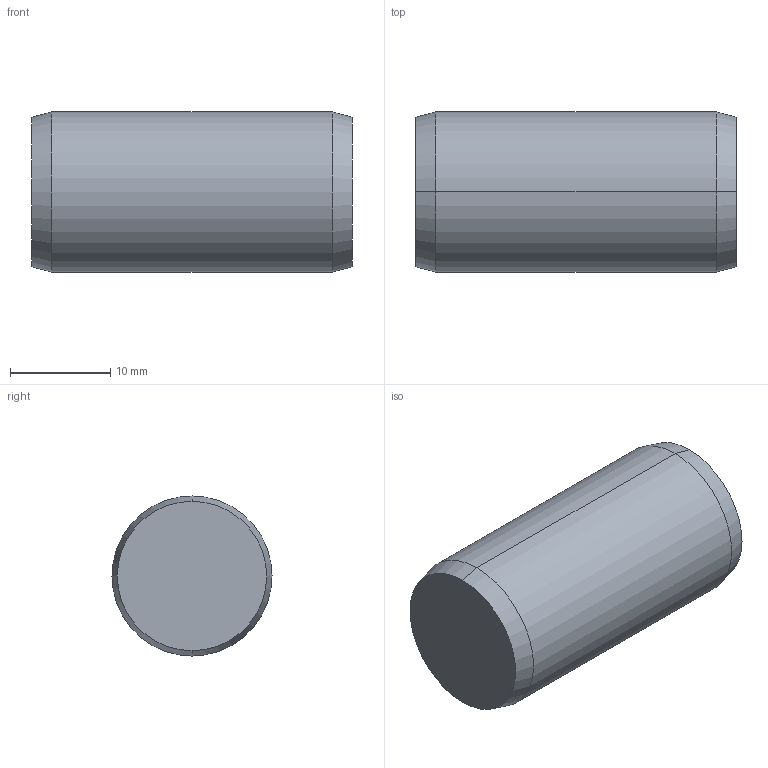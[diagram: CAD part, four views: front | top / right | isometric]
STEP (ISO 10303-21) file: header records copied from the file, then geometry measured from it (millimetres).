
FILE_DESCRIPTION (( 'STEP AP203' ), '1' );
FILE_NAME ('P1206.160-032.step', '2017-06-14T08:42:17', ( 'User' ), ( '' ), 'SwSTEP 2.0', 'SolidWorks 2009', '' );
FILE_SCHEMA (( 'CONFIG_CONTROL_DESIGN' ));
Length unit declared in the file: millimetre
Products named in the file (1): P1206.160-032
Bounding box: 32 x 16 x 16 mm (x, y, z)
Volume: 6381.3 mm3; surface area: 1958.7 mm2
Topology: 1 solids, 1 shells, 8 faces, 14 edges, 8 vertices
Faces by surface type: cone 4, cylinder 2, plane 2
Entity records: 271 total; most frequent: DIRECTION 40, CARTESIAN_POINT 31, ORIENTED_EDGE 28, AXIS2_PLACEMENT_3D 17, EDGE_CURVE 14, PERSON_AND_ORGANIZATION 8, VERTEX_POINT 8, EDGE_LOOP 8
